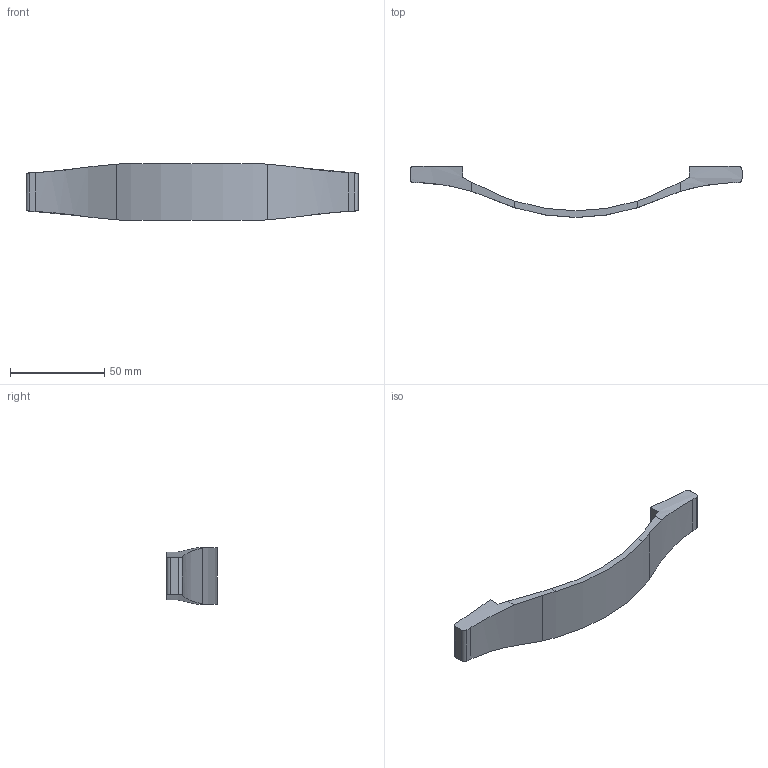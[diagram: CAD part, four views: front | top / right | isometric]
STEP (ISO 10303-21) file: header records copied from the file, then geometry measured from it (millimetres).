
FILE_DESCRIPTION( ( '' ), '1' );
FILE_NAME( 'D:/1.AUTOCAD EXPORT/Group 10/sheet_10_1/9113504.stp', '2013-10-21T12:22:28', ( '' ), ( '' ), ' ', ' ', ' ' );
FILE_SCHEMA( ( 'automotive_design' ) );
Length unit declared in the file: millimetre
Products named in the file (1): 1
Bounding box: 176 x 27 x 30 mm (x, y, z)
Volume: 24597 mm3; surface area: 12608.3 mm2
Topology: 1 solids, 1 shells, 34 faces, 90 edges, 60 vertices
Faces by surface type: cylinder 22, plane 12
Entity records: 2316 total; most frequent: CARTESIAN_POINT 465, STYLED_ITEM 185, PRESENTATION_STYLE_ASSIGNMENT 185, COLOUR_RGB 185, ORIENTED_EDGE 180, DIRECTION 148, EDGE_CURVE 90, CURVE_STYLE 90
